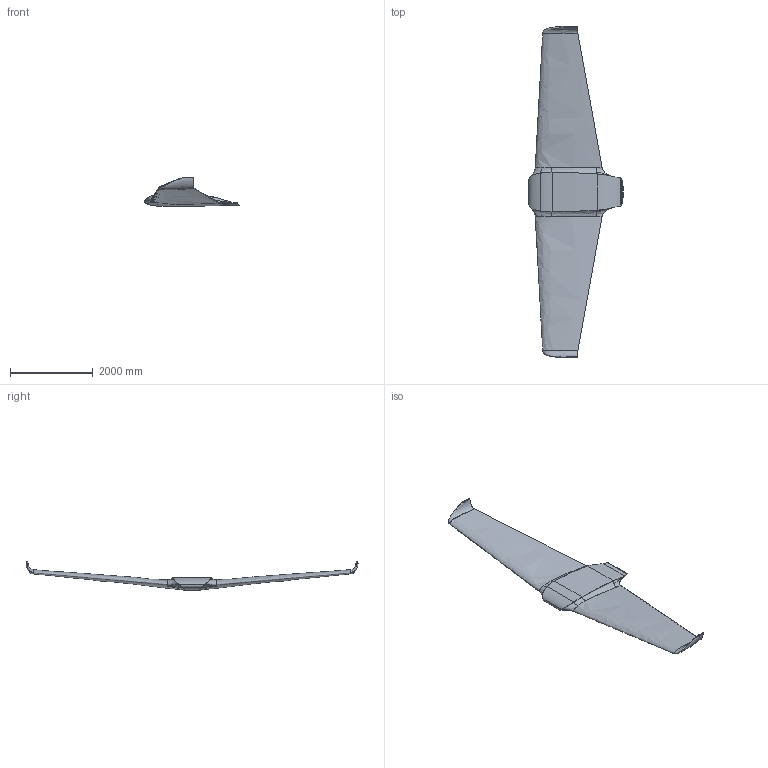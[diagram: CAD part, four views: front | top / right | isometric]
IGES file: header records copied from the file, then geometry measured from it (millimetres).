
Start section: START RECORD GO HERE.
Global section: file name: WINGS-FAIRINGS-WINGLETS.igs; native system: DASSAULT SYSTEMES CATIA V5 R20 - www.3ds.com; preprocessor: CATIA Version 5 Release 20 ; author: omo; organization: ACE; date: 20220614.121325; units: millimetre
Bounding box: 2272.54 x 8001.53 x 694.83 mm (x, y, z)
Surface area: 22448610.9 mm2 (no closed solid volume)
Topology: 0 solids, 0 shells, 59 faces, 289 edges, 286 vertices
Faces by surface type: bspline 57, plane 2
